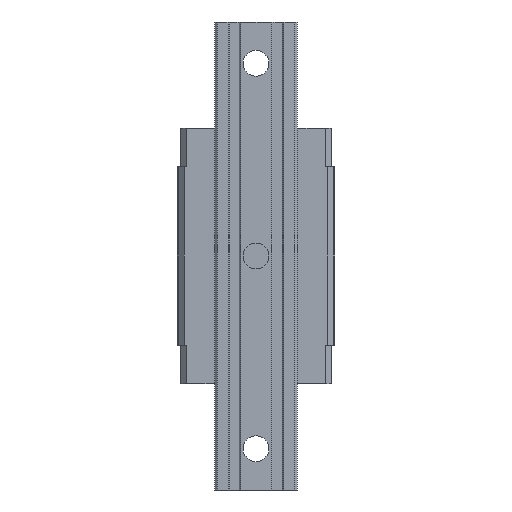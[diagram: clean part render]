
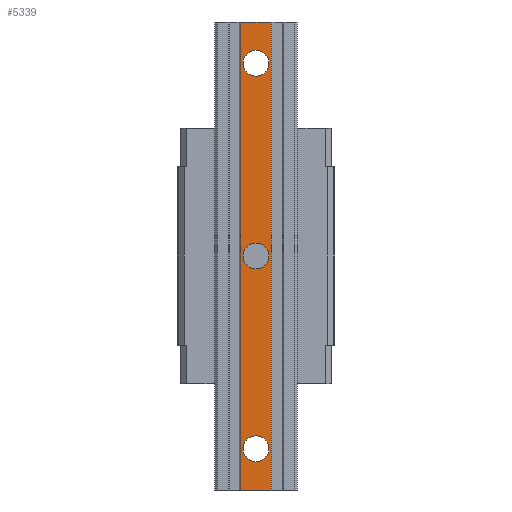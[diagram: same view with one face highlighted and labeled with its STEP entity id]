
A CAD part, front view. The second image highlights one B-rep face of the part: STEP entity #5339.
In plain terms, the highlighted planar face has unit normal (0, -1, 0).
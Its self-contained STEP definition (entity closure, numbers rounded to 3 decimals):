
#4263=DIRECTION('',(-1.,0.,0.));
#4264=VECTOR('',#4263,16.5);
#4265=CARTESIAN_POINT('',(8.25,-38.,-127.5));
#4266=LINE('',#4265,#4264);
#4267=DIRECTION('',(0.,0.,-1.));
#4268=VECTOR('',#4267,255.);
#4269=CARTESIAN_POINT('',(8.25,-38.,127.5));
#4270=LINE('',#4269,#4268);
#4271=CARTESIAN_POINT('',(0.,-38.,0.));
#4272=DIRECTION('',(0.,-1.,0.));
#4273=DIRECTION('',(1.,0.,0.));
#4274=AXIS2_PLACEMENT_3D('',#4271,#4272,#4273);
#4276=CARTESIAN_POINT('',(0.,-38.,0.));
#4277=DIRECTION('',(0.,-1.,0.));
#4278=DIRECTION('',(-1.,0.,0.));
#4279=AXIS2_PLACEMENT_3D('',#4276,#4277,#4278);
#4281=CARTESIAN_POINT('',(0.,-38.,105.));
#4282=DIRECTION('',(0.,-1.,0.));
#4283=DIRECTION('',(1.,0.,0.));
#4284=AXIS2_PLACEMENT_3D('',#4281,#4282,#4283);
#4286=CARTESIAN_POINT('',(0.,-38.,105.));
#4287=DIRECTION('',(0.,-1.,0.));
#4288=DIRECTION('',(-1.,0.,0.));
#4289=AXIS2_PLACEMENT_3D('',#4286,#4287,#4288);
#4291=CARTESIAN_POINT('',(0.,-38.,-105.));
#4292=DIRECTION('',(0.,-1.,0.));
#4293=DIRECTION('',(1.,0.,0.));
#4294=AXIS2_PLACEMENT_3D('',#4291,#4292,#4293);
#4296=CARTESIAN_POINT('',(0.,-38.,-105.));
#4297=DIRECTION('',(0.,-1.,0.));
#4298=DIRECTION('',(-1.,0.,0.));
#4299=AXIS2_PLACEMENT_3D('',#4296,#4297,#4298);
#4301=DIRECTION('',(0.,0.,-1.));
#4302=VECTOR('',#4301,255.);
#4303=CARTESIAN_POINT('',(-8.25,-38.,127.5));
#4304=LINE('',#4303,#4302);
#4526=DIRECTION('',(-1.,0.,0.));
#4527=VECTOR('',#4526,16.5);
#4528=CARTESIAN_POINT('',(8.25,-38.,127.5));
#4529=LINE('',#4528,#4527);
#4779=CARTESIAN_POINT('',(-8.25,-38.,-127.5));
#4780=VERTEX_POINT('',#4779);
#4781=CARTESIAN_POINT('',(8.25,-38.,-127.5));
#4782=VERTEX_POINT('',#4781);
#4855=CARTESIAN_POINT('',(8.25,-38.,127.5));
#4856=VERTEX_POINT('',#4855);
#4857=CARTESIAN_POINT('',(-8.25,-38.,127.5));
#4858=VERTEX_POINT('',#4857);
#4859=CARTESIAN_POINT('',(7.,-38.,0.));
#4860=CARTESIAN_POINT('',(-7.,-38.,0.));
#4861=VERTEX_POINT('',#4859);
#4862=VERTEX_POINT('',#4860);
#4863=CARTESIAN_POINT('',(7.,-38.,105.));
#4864=CARTESIAN_POINT('',(-7.,-38.,105.));
#4865=VERTEX_POINT('',#4863);
#4866=VERTEX_POINT('',#4864);
#4867=CARTESIAN_POINT('',(7.,-38.,-105.));
#4868=CARTESIAN_POINT('',(-7.,-38.,-105.));
#4869=VERTEX_POINT('',#4867);
#4870=VERTEX_POINT('',#4868);
#5308=CARTESIAN_POINT('',(-8.25,-38.,-127.5));
#5309=DIRECTION('',(0.,-1.,0.));
#5310=DIRECTION('',(1.,0.,0.));
#5311=AXIS2_PLACEMENT_3D('',#5308,#5309,#5310);
#5312=PLANE('',#5311);
#5313=ORIENTED_EDGE('',*,*,#5000,.T.);
#5315=ORIENTED_EDGE('',*,*,#5314,.F.);
#5317=ORIENTED_EDGE('',*,*,#5316,.F.);
#5318=ORIENTED_EDGE('',*,*,#5300,.T.);
#5319=EDGE_LOOP('',(#5313,#5315,#5317,#5318));
#5320=FACE_OUTER_BOUND('',#5319,.F.);
#5322=ORIENTED_EDGE('',*,*,#5321,.T.);
#5324=ORIENTED_EDGE('',*,*,#5323,.T.);
#5325=EDGE_LOOP('',(#5322,#5324));
#5326=FACE_BOUND('',#5325,.F.);
#5328=ORIENTED_EDGE('',*,*,#5327,.T.);
#5330=ORIENTED_EDGE('',*,*,#5329,.T.);
#5331=EDGE_LOOP('',(#5328,#5330));
#5332=FACE_BOUND('',#5331,.F.);
#5334=ORIENTED_EDGE('',*,*,#5333,.T.);
#5336=ORIENTED_EDGE('',*,*,#5335,.T.);
#5337=EDGE_LOOP('',(#5334,#5336));
#5338=FACE_BOUND('',#5337,.F.);
#5339=ADVANCED_FACE('',(#5320,#5326,#5332,#5338),#5312,.T.);
#4275=CIRCLE('',#4274,7.);
#4280=CIRCLE('',#4279,7.);
#4285=CIRCLE('',#4284,7.);
#4290=CIRCLE('',#4289,7.);
#4295=CIRCLE('',#4294,7.);
#4300=CIRCLE('',#4299,7.);
#5000=EDGE_CURVE('',#4782,#4780,#4266,.T.);
#5300=EDGE_CURVE('',#4856,#4782,#4270,.T.);
#5314=EDGE_CURVE('',#4858,#4780,#4304,.T.);
#5316=EDGE_CURVE('',#4856,#4858,#4529,.T.);
#5321=EDGE_CURVE('',#4861,#4862,#4275,.T.);
#5323=EDGE_CURVE('',#4862,#4861,#4280,.T.);
#5327=EDGE_CURVE('',#4865,#4866,#4285,.T.);
#5329=EDGE_CURVE('',#4866,#4865,#4290,.T.);
#5333=EDGE_CURVE('',#4869,#4870,#4295,.T.);
#5335=EDGE_CURVE('',#4870,#4869,#4300,.T.);
